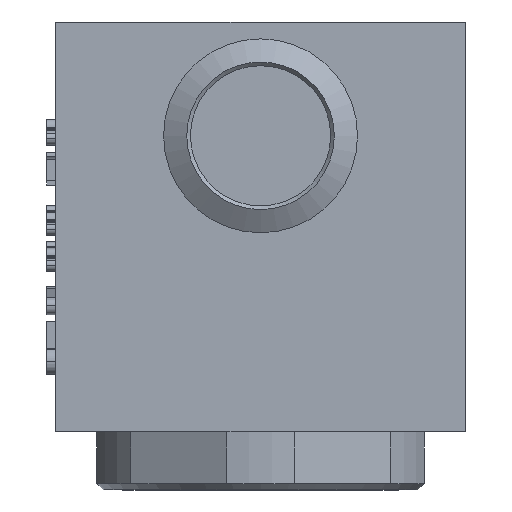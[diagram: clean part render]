
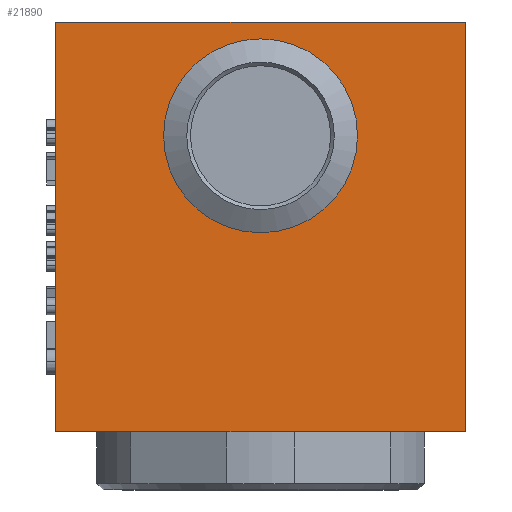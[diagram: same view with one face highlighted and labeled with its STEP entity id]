
A CAD part, left-side view. The second image highlights one B-rep face of the part: STEP entity #21890.
In plain terms, the highlighted planar face has unit normal (-1, 0, 0).
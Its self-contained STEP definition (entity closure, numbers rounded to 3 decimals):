
#67=CIRCLE('',#22622,10.65);
#228=FACE_BOUND('',#3979,.T.);
#2726=FACE_OUTER_BOUND('',#3978,.T.);
#3978=EDGE_LOOP('',(#20028,#20029,#20030,#20031));
#3979=EDGE_LOOP('',(#20032));
#6167=LINE('',#37933,#8397);
#6207=LINE('',#38114,#8437);
#6210=LINE('',#38122,#8440);
#6211=LINE('',#38123,#8441);
#8397=VECTOR('',#26123,45.);
#8437=VECTOR('',#26343,45.);
#8440=VECTOR('',#26352,45.);
#8441=VECTOR('',#26353,45.);
#10497=VERTEX_POINT('',#37930);
#10498=VERTEX_POINT('',#37932);
#10542=VERTEX_POINT('',#38092);
#10548=VERTEX_POINT('',#38110);
#10551=VERTEX_POINT('',#38121);
#13632=EDGE_CURVE('',#10498,#10497,#6167,.T.);
#13701=EDGE_CURVE('',#10542,#10542,#67,.T.);
#13709=EDGE_CURVE('',#10498,#10548,#6207,.T.);
#13712=EDGE_CURVE('',#10551,#10497,#6210,.T.);
#13713=EDGE_CURVE('',#10548,#10551,#6211,.T.);
#20028=ORIENTED_EDGE('',*,*,#13632,.T.);
#20029=ORIENTED_EDGE('',*,*,#13712,.F.);
#20030=ORIENTED_EDGE('',*,*,#13713,.F.);
#20031=ORIENTED_EDGE('',*,*,#13709,.F.);
#20032=ORIENTED_EDGE('',*,*,#13701,.T.);
#20735=PLANE('',#22636);
#21890=ADVANCED_FACE('',(#2726,#228),#20735,.T.);
#22622=AXIS2_PLACEMENT_3D('',#38093,#26317,#26318);
#22636=AXIS2_PLACEMENT_3D('',#38120,#26350,#26351);
#26123=DIRECTION('',(0.,0.,-1.));
#26317=DIRECTION('center_axis',(1.,0.,0.));
#26318=DIRECTION('ref_axis',(0.,1.,0.));
#26343=DIRECTION('',(0.,-1.,0.));
#26350=DIRECTION('center_axis',(-1.,0.,0.));
#26351=DIRECTION('ref_axis',(0.,1.,0.));
#26352=DIRECTION('',(0.,1.,0.));
#26353=DIRECTION('',(0.,0.,-1.));
#37930=CARTESIAN_POINT('',(-22.5,22.5,-32.5));
#37932=CARTESIAN_POINT('',(-22.5,22.5,12.5));
#37933=CARTESIAN_POINT('',(-22.5,22.5,0.));
#38092=CARTESIAN_POINT('',(-22.5,10.65,0.));
#38093=CARTESIAN_POINT('Origin',(-22.5,0.,0.));
#38110=CARTESIAN_POINT('',(-22.5,-22.5,12.5));
#38114=CARTESIAN_POINT('',(-22.5,-22.5,12.5));
#38120=CARTESIAN_POINT('Origin',(-22.5,-22.5,0.));
#38121=CARTESIAN_POINT('',(-22.5,-22.5,-32.5));
#38122=CARTESIAN_POINT('',(-22.5,-22.5,-32.5));
#38123=CARTESIAN_POINT('',(-22.5,-22.5,0.));
